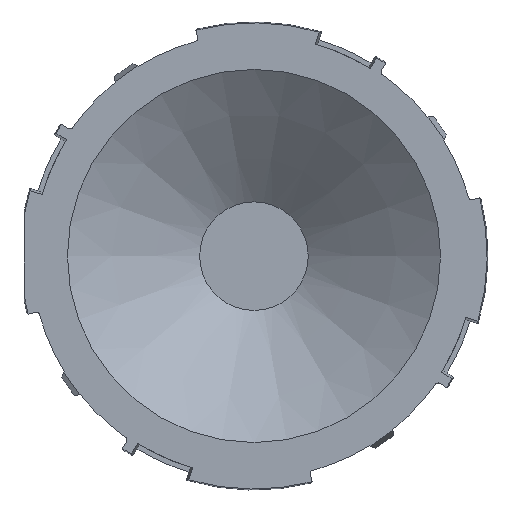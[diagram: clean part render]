
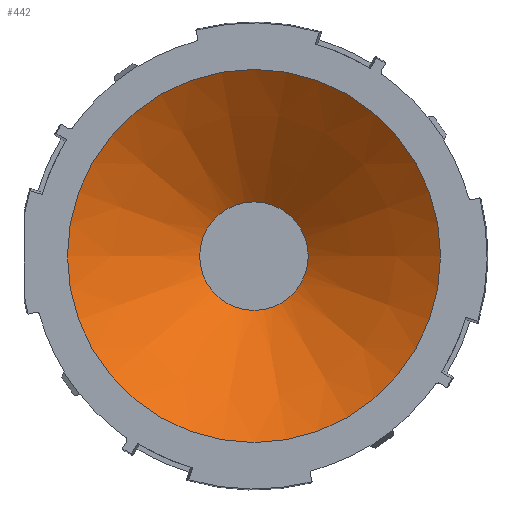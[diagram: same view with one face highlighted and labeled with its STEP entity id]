
A CAD part, top view. The second image highlights one B-rep face of the part: STEP entity #442.
In plain terms, the highlighted conical face has half-angle 53.253 degrees and reference radius 8 mm.
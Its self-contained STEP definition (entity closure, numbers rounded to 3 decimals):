
#442=ADVANCED_FACE('',(#911,#912),#913,.F.);
#911=FACE_OUTER_BOUND('',#1602,.T.);
#912=FACE_BOUND('',#1603,.T.);
#913=CONICAL_SURFACE('',#1604,8.0,0.929);
#1602=EDGE_LOOP('',(#2780));
#1603=EDGE_LOOP('',(#2781));
#1604=AXIS2_PLACEMENT_3D('',#2782,#2783,#2784);
#2780=ORIENTED_EDGE('',*,*,#3704,.F.);
#2781=ORIENTED_EDGE('',*,*,#3705,.T.);
#2782=CARTESIAN_POINT('',(0.0,0.0,29.0));
#2783=DIRECTION('',(-0.0,-0.0,1.0));
#2784=DIRECTION('',(1.0,0.0,0.0));
#3704=EDGE_CURVE('',#4573,#4573,#4574,.T.);
#3705=EDGE_CURVE('',#4575,#4575,#4576,.T.);
#4573=VERTEX_POINT('',#6048);
#4574=CIRCLE('',#6049,27.5);
#4575=VERTEX_POINT('',#6050);
#4576=CIRCLE('',#6051,8.0);
#6048=CARTESIAN_POINT('',(-27.5,0.0,43.56));
#6049=AXIS2_PLACEMENT_3D('',#6694,#6695,#6696);
#6050=CARTESIAN_POINT('',(-8.0,0.0,29.0));
#6051=AXIS2_PLACEMENT_3D('',#6697,#6698,#6699);
#6694=CARTESIAN_POINT('',(0.0,0.0,43.56));
#6695=DIRECTION('',(0.0,0.0,-1.0));
#6696=DIRECTION('',(-1.0,0.0,0.0));
#6697=CARTESIAN_POINT('',(0.0,0.0,29.0));
#6698=DIRECTION('',(0.0,0.0,-1.0));
#6699=DIRECTION('',(-1.0,0.0,0.0));
